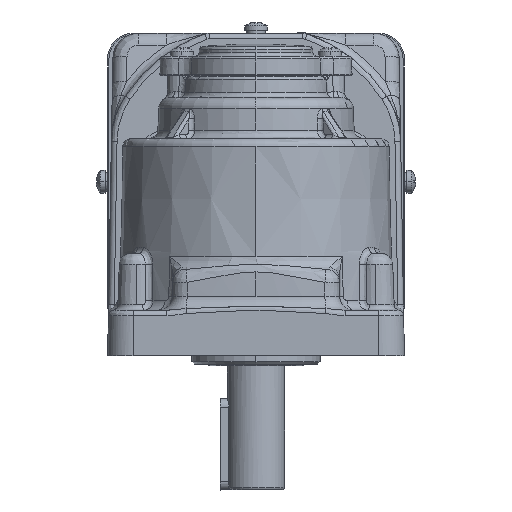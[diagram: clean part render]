
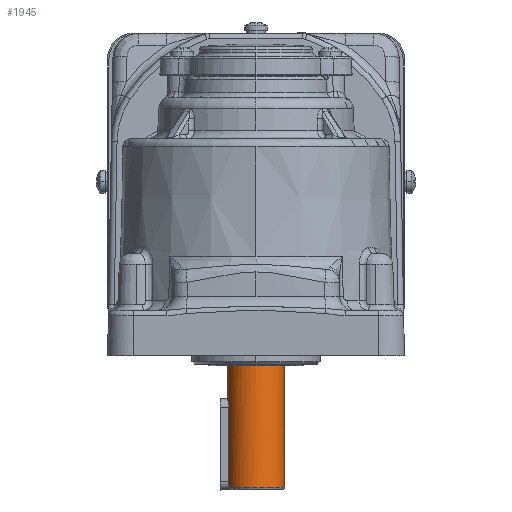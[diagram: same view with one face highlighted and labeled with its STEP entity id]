
A CAD part, left-side view. The second image highlights one B-rep face of the part: STEP entity #1945.
In plain terms, the highlighted cylindrical face has radius 10 mm (diameter 20 mm), a partial arc.
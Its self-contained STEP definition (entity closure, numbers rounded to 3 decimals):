
#219 = CARTESIAN_POINT ( 'NONE',  ( -34.902, 29.711, 86.838 ) ) ;
#1449 = ORIENTED_EDGE ( 'NONE', *, *, #3049, .T. ) ;
#1945 = ADVANCED_FACE ( 'NONE', ( #5435 ), #43327, .T. ) ;
#3049 = EDGE_CURVE ( 'NONE', #13231, #79816, #50978, .T. ) ;
#4562 = EDGE_CURVE ( 'NONE', #79816, #33057, #61961, .T. ) ;
#5435 = FACE_OUTER_BOUND ( 'NONE', #23775, .T. ) ;
#5530 = VECTOR ( 'NONE', #61582, 1000. ) ;
#5908 = CARTESIAN_POINT ( 'NONE',  ( -35.421, 29.569, 85.791 ) ) ;
#6153 = DIRECTION ( 'NONE',  ( 0., 0., 1. ) ) ;
#6307 = CARTESIAN_POINT ( 'NONE',  ( -33.312, 29.973, 87.929 ) ) ;
#6556 = CARTESIAN_POINT ( 'NONE',  ( -32.523, 29.998, 188.508 ) ) ;
#7033 = VECTOR ( 'NONE', #26104, 1000. ) ;
#11151 = LINE ( 'NONE', #78841, #56927 ) ;
#11637 = CARTESIAN_POINT ( 'NONE',  ( -35.523, 29.537, 85.208 ) ) ;
#12605 = CARTESIAN_POINT ( 'NONE',  ( -35.523, 29.537, 188.508 ) ) ;
#13231 = VERTEX_POINT ( 'NONE', #21778 ) ;
#15811 = DIRECTION ( 'NONE',  ( 0., -1., 0. ) ) ;
#16489 = AXIS2_PLACEMENT_3D ( 'NONE', #26414, #39086, #51277 ) ;
#18334 = ORIENTED_EDGE ( 'NONE', *, *, #4562, .T. ) ;
#18852 = CARTESIAN_POINT ( 'NONE',  ( -35.523, 29.537, 59.008 ) ) ;
#19197 = LINE ( 'NONE', #6556, #77215 ) ;
#19892 = CARTESIAN_POINT ( 'NONE',  ( -32.523, 9.998, 57.008 ) ) ;
#21778 = CARTESIAN_POINT ( 'NONE',  ( -35.523, 29.537, 85.008 ) ) ;
#23775 = EDGE_LOOP ( 'NONE', ( #74755, #60380, #1449, #18334, #40667, #64667, #74955 ) ) ;
#24267 = CARTESIAN_POINT ( 'NONE',  ( -34.96, 29.696, 86.761 ) ) ;
#24664 = CARTESIAN_POINT ( 'NONE',  ( -34.714, 29.755, 87.06 ) ) ;
#26104 = DIRECTION ( 'NONE',  ( 0., 0., -1. ) ) ;
#26414 = CARTESIAN_POINT ( 'NONE',  ( -32.523, 19.998, 99.508 ) ) ;
#26503 = CARTESIAN_POINT ( 'NONE',  ( -35.523, 29.537, 188.508 ) ) ;
#28776 = VERTEX_POINT ( 'NONE', #78871 ) ;
#30684 = DIRECTION ( 'NONE',  ( 0., -1., 0. ) ) ;
#30764 = CIRCLE ( 'NONE', #16489, 10. ) ;
#31183 = CARTESIAN_POINT ( 'NONE',  ( -35.444, 29.561, 85.698 ) ) ;
#33057 = VERTEX_POINT ( 'NONE', #54181 ) ;
#33478 = CIRCLE ( 'NONE', #34770, 10. ) ;
#34770 = AXIS2_PLACEMENT_3D ( 'NONE', #45985, #77742, #15811 ) ;
#37312 = CARTESIAN_POINT ( 'NONE',  ( -35.125, 29.654, 86.515 ) ) ;
#38148 = CARTESIAN_POINT ( 'NONE',  ( -32.918, 29.998, 88.008 ) ) ;
#39061 = AXIS2_PLACEMENT_3D ( 'NONE', #61304, #68592, #30684 ) ;
#39086 = DIRECTION ( 'NONE',  ( 0., 0., 1. ) ) ;
#40667 = ORIENTED_EDGE ( 'NONE', *, *, #64377, .T. ) ;
#43327 = CYLINDRICAL_SURFACE ( 'NONE', #39061, 10. ) ;
#43805 = CARTESIAN_POINT ( 'NONE',  ( -35.503, 29.543, 85.405 ) ) ;
#43982 = B_SPLINE_CURVE_WITH_KNOTS ( 'NONE', 3,
 ( #67503, #38148, #6307, #61779, #49952, #24664, #49554, #219, #24267, #37312, #62999, #74788, #69108, #5908, #31183, #43805, #11637, #61406 ),
 .UNSPECIFIED., .F., .F.,
 ( 4, 2, 2, 2, 2, 2, 2, 2, 4 ),
 ( 0., 0.25, 0.5, 0.563, 0.625, 0.75, 0.813, 0.875, 1. ),
 .UNSPECIFIED. ) ;
#45985 = CARTESIAN_POINT ( 'NONE',  ( -32.523, 19.998, 57.008 ) ) ;
#47859 = DIRECTION ( 'NONE',  ( 0., 0., 1. ) ) ;
#49554 = CARTESIAN_POINT ( 'NONE',  ( -34.779, 29.74, 86.988 ) ) ;
#49952 = CARTESIAN_POINT ( 'NONE',  ( -34.368, 29.83, 87.406 ) ) ;
#50326 = EDGE_CURVE ( 'NONE', #28776, #13231, #43982, .T. ) ;
#50978 = LINE ( 'NONE', #26503, #7033 ) ;
#51277 = DIRECTION ( 'NONE',  ( 0., -1., 0. ) ) ;
#54181 = CARTESIAN_POINT ( 'NONE',  ( -35.523, 29.537, 57.008 ) ) ;
#56785 = EDGE_CURVE ( 'NONE', #59789, #71001, #11151, .T. ) ;
#56927 = VECTOR ( 'NONE', #47859, 1000. ) ;
#59789 = VERTEX_POINT ( 'NONE', #19892 ) ;
#60058 = CARTESIAN_POINT ( 'NONE',  ( -32.523, 29.998, 99.508 ) ) ;
#60380 = ORIENTED_EDGE ( 'NONE', *, *, #50326, .T. ) ;
#61304 = CARTESIAN_POINT ( 'NONE',  ( -32.523, 19.998, 188.508 ) ) ;
#61406 = CARTESIAN_POINT ( 'NONE',  ( -35.523, 29.537, 85.008 ) ) ;
#61582 = DIRECTION ( 'NONE',  ( 0., 0., -1. ) ) ;
#61779 = CARTESIAN_POINT ( 'NONE',  ( -34.037, 29.889, 87.628 ) ) ;
#61961 = LINE ( 'NONE', #12605, #5530 ) ;
#62999 = CARTESIAN_POINT ( 'NONE',  ( -35.217, 29.628, 86.343 ) ) ;
#63816 = EDGE_CURVE ( 'NONE', #77022, #71001, #30764, .T. ) ;
#64377 = EDGE_CURVE ( 'NONE', #33057, #59789, #33478, .T. ) ;
#64667 = ORIENTED_EDGE ( 'NONE', *, *, #56785, .T. ) ;
#67503 = CARTESIAN_POINT ( 'NONE',  ( -32.523, 29.998, 88.008 ) ) ;
#68537 = CARTESIAN_POINT ( 'NONE',  ( -32.523, 9.998, 99.508 ) ) ;
#68592 = DIRECTION ( 'NONE',  ( 0., 0., 1. ) ) ;
#69108 = CARTESIAN_POINT ( 'NONE',  ( -35.364, 29.586, 85.978 ) ) ;
#71001 = VERTEX_POINT ( 'NONE', #68537 ) ;
#74755 = ORIENTED_EDGE ( 'NONE', *, *, #76260, .F. ) ;
#74788 = CARTESIAN_POINT ( 'NONE',  ( -35.33, 29.596, 86.07 ) ) ;
#74955 = ORIENTED_EDGE ( 'NONE', *, *, #63816, .F. ) ;
#76260 = EDGE_CURVE ( 'NONE', #28776, #77022, #19197, .T. ) ;
#77022 = VERTEX_POINT ( 'NONE', #60058 ) ;
#77215 = VECTOR ( 'NONE', #6153, 1000. ) ;
#77742 = DIRECTION ( 'NONE',  ( 0., 0., 1. ) ) ;
#78841 = CARTESIAN_POINT ( 'NONE',  ( -32.523, 9.998, 188.508 ) ) ;
#78871 = CARTESIAN_POINT ( 'NONE',  ( -32.523, 29.998, 88.008 ) ) ;
#79816 = VERTEX_POINT ( 'NONE', #18852 ) ;
